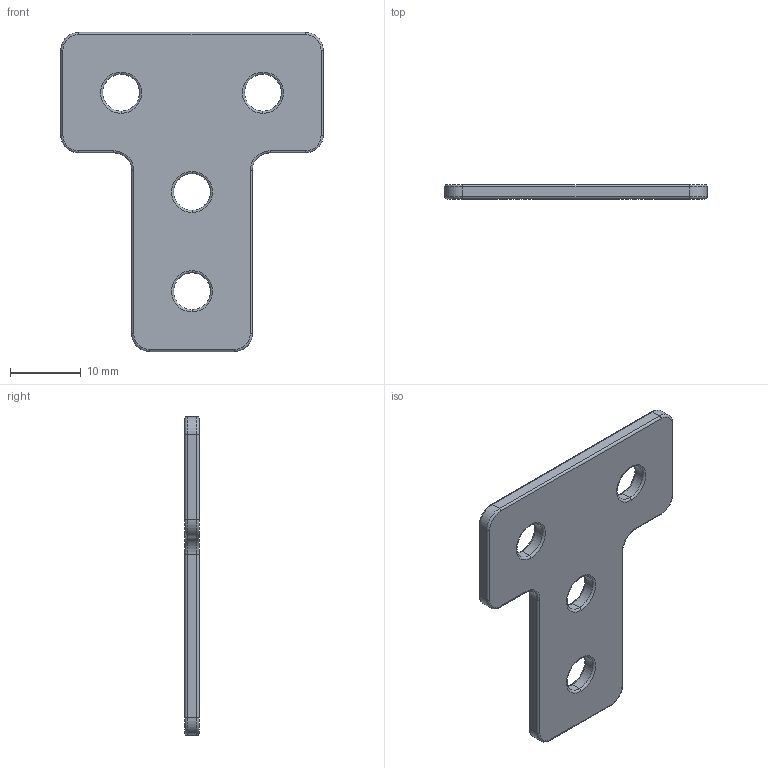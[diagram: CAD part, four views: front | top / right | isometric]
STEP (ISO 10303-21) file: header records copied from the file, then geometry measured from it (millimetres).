
FILE_DESCRIPTION (( 'STEP AP203' ), '1' );
FILE_NAME ('ﾒ-4-20.STEP', '2016-07-22T09:04:20', ( '' ), ( '' ), 'SwSTEP 2.0', 'SolidWorks 2014', '' );
FILE_SCHEMA (( 'CONFIG_CONTROL_DESIGN' ));
Length unit declared in the file: millimetre
Products named in the file (1): ﾒ-4-20
Bounding box: 37 x 2 x 45 mm (x, y, z)
Volume: 2020.8 mm3; surface area: 2414.3 mm2
Topology: 1 solids, 1 shells, 74 faces, 168 edges, 96 vertices
Faces by surface type: torus 32, cylinder 32, plane 10
Entity records: 2173 total; most frequent: DIRECTION 430, CARTESIAN_POINT 339, ORIENTED_EDGE 336, AXIS2_PLACEMENT_3D 187, EDGE_CURVE 168, CIRCLE 112, VERTEX_POINT 96, EDGE_LOOP 82
